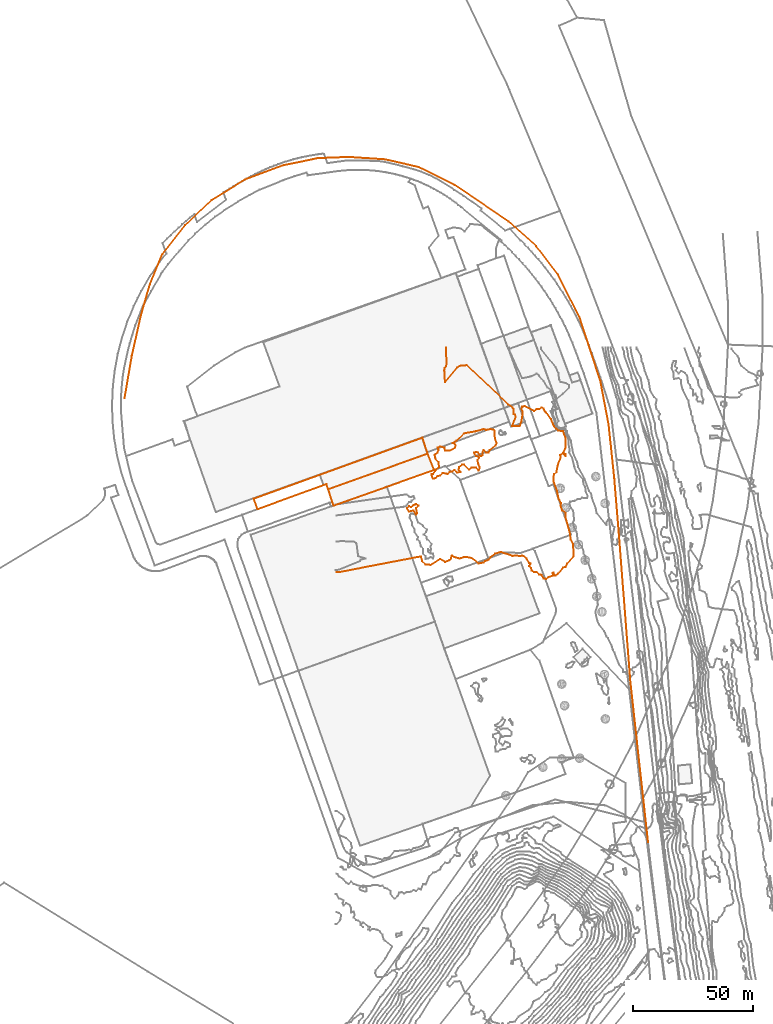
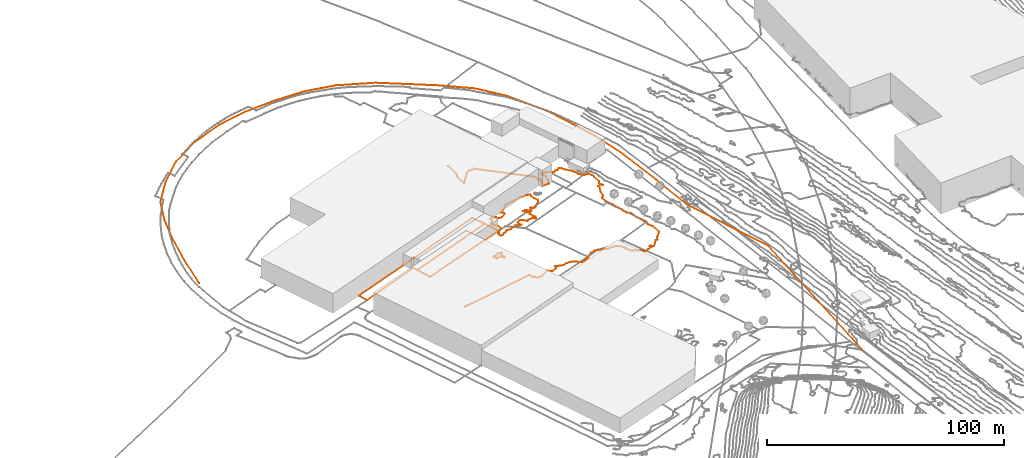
# Not in any storey, part 288 of 419: 6 proxies.
"""IFC2X3 model written with IfcOpenShell, lengths in metres."""

from ifc_helpers import new_model, entity, si_unit, frame, origin_with_axes, place, context, subcontext, project, element, save


model = new_model("IFC2X3")

# Units and contexts
model_context = context("Model", 3, precision=1e-05, world=origin_with_axes())
body_context = subcontext(model_context, "Body", "Model", "MODEL_VIEW")
ifc_project = project(units=[si_unit("AREAUNIT", "SQUARE_METRE"), si_unit("LENGTHUNIT", "METRE")], contexts=[model_context])

# Proxies
proxy_1_placement = place(None, frame((-87.9079795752, 1011.4976909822, 20.1), z_axis=(0.0, 0.0, 1.0), x_axis=(1.0, 0.0, 0.0)))
element("IfcBuildingElementProxy", 1, at=proxy_1_placement, Name="Route 140", ObjectType="NOTDEFINED", context=body_context, shape_type="GeometricCurveSet", body=[
    entity("IfcGeometricCurveSet", [entity("IfcPolyline", [entity("IfcCartesianPoint", [217.3, -184.5, 1.0]), entity("IfcCartesianPoint", [209.9, -117.0, 16.7]), entity("IfcCartesianPoint", [205.2, -56.5999999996, 2.8]), entity("IfcCartesianPoint", [203.3, -33.5999999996, 2.5]), entity("IfcCartesianPoint", [200.9, -10.6999999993, 2.3]), entity("IfcCartesianPoint", [197.5, 7.1000000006, 2.2]), entity("IfcCartesianPoint", [188.9, 33.4000000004, 2.3]), entity("IfcCartesianPoint", [179.9, 51.3000000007, 2.3]), entity("IfcCartesianPoint", [170.8, 63.2000000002, 2.2]), entity("IfcCartesianPoint", [159.4, 73.3000000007, 1.6]), entity("IfcCartesianPoint", [137.0, 88.5, 1.6]), entity("IfcCartesianPoint", [122.1, 95.9000000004, 1.0]), entity("IfcCartesianPoint", [108.1, 99.1000000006, 0.8]), entity("IfcCartesianPoint", [93.0, 100.1000000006, 0.2]), entity("IfcCartesianPoint", [80.2, 99.6000000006, -0.1]), entity("IfcCartesianPoint", [65.6, 96.6000000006, 0.0]), entity("IfcCartesianPoint", [50.1, 90.8000000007, 0.0]), entity("IfcCartesianPoint", [36.1, 82.2000000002, 0.0]), entity("IfcCartesianPoint", [25.1, 71.8000000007, 0.0]), entity("IfcCartesianPoint", [15.7, 59.9000000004, 0.0]), entity("IfcCartesianPoint", [10.5, 47.4000000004, 0.0]), entity("IfcCartesianPoint", [6.6, 33.7000000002, 0.0]), entity("IfcCartesianPoint", [3.0, 17.4000000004, 0.0]), entity("IfcCartesianPoint", [0.0, 0.0, 0.0])])]),
])
proxy_2_placement = place(None, frame((-3.3779795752, 973.667690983, 20.1100006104), z_axis=(0.0, 0.0, 1.0), x_axis=(1.0, 0.0, 0.0)))
element("IfcBuildingElementProxy", 2, at=proxy_2_placement, Name="Cadastre 261", ObjectType="NOTDEFINED", context=body_context, shape_type="GeometricCurveSet", body=[
    entity("IfcGeometricCurveSet", [entity("IfcPolyline", [entity("IfcCartesianPoint", [1.6799999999, -5.1699999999, -0.0649997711]), entity("IfcCartesianPoint", [0.0, 0.0, 0.0]), entity("IfcCartesianPoint", [41.27, 14.79, 0.4421793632]), entity("IfcCartesianPoint", [41.34, 14.5599999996, 0.4602443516]), entity("IfcCartesianPoint", [44.0, 8.0299999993, -0.1221913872]), entity("IfcCartesianPoint", [2.21, -6.8000000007, -0.1771011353]), entity("IfcCartesianPoint", [1.6799999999, -5.1699999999, -0.0649997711])])]),
])
proxy_3_placement = place(None, frame((-34.2679795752, 969.7476909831, 20.0935002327), z_axis=(0.0, 0.0, 1.0), x_axis=(1.0, 0.0, 0.0)))
element("IfcBuildingElementProxy", 3, at=proxy_3_placement, Name="Cadastre 266", ObjectType="NOTDEFINED", context=body_context, shape_type="GeometricCurveSet", body=[
    entity("IfcGeometricCurveSet", [entity("IfcPolyline", [entity("IfcCartesianPoint", [72.16, 18.71, 0.4586797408]), entity("IfcCartesianPoint", [30.89, 3.9199999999, 0.0165003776]), entity("IfcCartesianPoint", [30.1800000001, 6.0899999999, 0.0209004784]), entity("IfcCartesianPoint", [28.95, 5.6499999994, 0.0165003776]), entity("IfcCartesianPoint", [1.52, -4.3400000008, -0.2628003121]), entity("IfcCartesianPoint", [0.0, 0.0, 0.0]), entity("IfcCartesianPoint", [70.03, 25.3499999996, 0.134989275]), entity("IfcCartesianPoint", [72.16, 18.71, 0.4586797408])])]),
])
proxy_4_placement = place(None, frame((39.5920704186, 979.8976909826, 20.0), z_axis=(0.0, 0.0, 1.0), x_axis=(1.0, 0.0, 0.0)))
element("IfcBuildingElementProxy", 4, at=proxy_4_placement, Name="Contour 20.0 m", ObjectType="NOTDEFINED", context=body_context, shape_type="GeometricCurveSet", body=[
    entity("IfcGeometricCurveSet", [entity("IfcPolyline", [entity("IfcCartesianPoint", [1.4999500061, -1.5999999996, 0.0]), entity("IfcCartesianPoint", [2.4999500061, -0.75, 0.0]), entity("IfcCartesianPoint", [3.4999500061, -0.499983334, 0.0]), entity("IfcCartesianPoint", [4.4999500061, 0.5000249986, 0.0]), entity("IfcCartesianPoint", [6.4999500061, 0.1666719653, 0.0]), entity("IfcCartesianPoint", [7.4999500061, 1.0000499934, 0.0]), entity("IfcCartesianPoint", [8.4999500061, 1.2000000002, 0.0]), entity("IfcCartesianPoint", [9.4999500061, 1.7999999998, 0.0]), entity("IfcCartesianPoint", [10.4999500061, 0.7499940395, 0.0]), entity("IfcCartesianPoint", [11.9999000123, 1.0, 0.0]), entity("IfcCartesianPoint", [11.4999500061, 1.333333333, 0.0]), entity("IfcCartesianPoint", [11.2142279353, 2.0, 0.0]), entity("IfcCartesianPoint", [11.2999500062, 3.0, 0.0]), entity("IfcCartesianPoint", [12.4999500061, 4.0000199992, 0.0]), entity("IfcCartesianPoint", [13.4999500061, 4.0000999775, 0.0]), entity("IfcCartesianPoint", [15.4999500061, 2.0000499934, 0.0]), entity("IfcCartesianPoint", [16.4999500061, 2.7142779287, 0.0]), entity("IfcCartesianPoint", [18.4999500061, 2.75, 0.0]), entity("IfcCartesianPoint", [19.4999500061, 1.5714285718, 0.0]), entity("IfcCartesianPoint", [19.9444038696, 3.0, 0.0]), entity("IfcCartesianPoint", [19.3749470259, 4.0, 0.0]), entity("IfcCartesianPoint", [18.9285214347, 6.0, 0.0]), entity("IfcCartesianPoint", [19.7499500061, 7.0, 0.0]), entity("IfcCartesianPoint", [19.4999500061, 7.333333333, 0.0]), entity("IfcCartesianPoint", [18.4999500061, 7.4999750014, 0.0]), entity("IfcCartesianPoint", [17.4999357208, 9.0, 0.0]), entity("IfcCartesianPoint", [18.4999500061, 9.2727320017, 0.0]), entity("IfcCartesianPoint", [19.2499500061, 9.0, 0.0]), entity("IfcCartesianPoint", [20.4999500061, 7.500016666, 0.0]), entity("IfcCartesianPoint", [20.9999333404, 8.0, 0.0]), entity("IfcCartesianPoint", [20.9999000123, 9.0, 0.0]), entity("IfcCartesianPoint", [21.4999500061, 10.0000249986, 0.0]), entity("IfcCartesianPoint", [22.4999500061, 9.0000333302, 0.0]), entity("IfcCartesianPoint", [23.4999500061, 9.0000333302, 0.0]), entity("IfcCartesianPoint", [24.0999500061, 10.0, 0.0]), entity("IfcCartesianPoint", [26.4999500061, 12.0000249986, 0.0]), entity("IfcCartesianPoint", [26.9444038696, 13.0, 0.0]), entity("IfcCartesianPoint", [26.2499440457, 15.0, 0.0]), entity("IfcCartesianPoint", [25.9999333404, 17.0, 0.0]), entity("IfcCartesianPoint", [26.1666166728, 18.0, 0.0]), entity("IfcCartesianPoint", [25.4999500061, 18.4999750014, 0.0]), entity("IfcCartesianPoint", [24.4999500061, 18.75, 0.0]), entity("IfcCartesianPoint", [22.4999500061, 18.4285714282, 0.0]), entity("IfcCartesianPoint", [21.4999500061, 18.7499940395, 0.0]), entity("IfcCartesianPoint", [18.4999500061, 17.8749970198, 0.0]), entity("IfcCartesianPoint", [13.4999500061, 16.9999750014, 0.0]), entity("IfcCartesianPoint", [10.2999500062, 14.0, 0.0]), entity("IfcCartesianPoint", [8.6666219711, 13.0, 0.0]), entity("IfcCartesianPoint", [9.4999500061, 12.6875044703, 0.0]), entity("IfcCartesianPoint", [9.9230289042, 12.0, 0.0]), entity("IfcCartesianPoint", [9.5869086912, 11.0, 0.0]), entity("IfcCartesianPoint", [7.4999500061, 9.7619073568, 0.0]), entity("IfcCartesianPoint", [5.4999500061, 9.8888865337, 0.0]), entity("IfcCartesianPoint", [5.3570889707, 11.0, 0.0]), entity("IfcCartesianPoint", [3.4999500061, 11.5625014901, 0.0]), entity("IfcCartesianPoint", [2.4999500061, 11.0384623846, 0.0]), entity("IfcCartesianPoint", [2.7499539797, 10.0, 0.0]), entity("IfcCartesianPoint", [2.323475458, 9.0, 0.0]), entity("IfcCartesianPoint", [1.4999500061, 8.4814809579, 0.0]), entity("IfcCartesianPoint", [1.2635875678, 8.0, 0.0]), entity("IfcCartesianPoint", [1.4999500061, 6.5500009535, 0.0]), entity("IfcCartesianPoint", [2.8749509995, 5.0, 0.0]), entity("IfcCartesianPoint", [2.9999625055, 3.0, 0.0]), entity("IfcCartesianPoint", [1.899947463, 2.0, 0.0]), entity("IfcCartesianPoint", [0.4999500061, 0.0500009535, 0.0]), entity("IfcCartesianPoint", [0.0, 0.0, 0.0]), entity("IfcCartesianPoint", [0.0554961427, -1.0, 0.0]), entity("IfcCartesianPoint", [0.4999500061, -1.7999999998, 0.0]), entity("IfcCartesianPoint", [1.4999500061, -1.5999999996, 0.0])])]),
])
proxy_5_placement = place(None, frame((29.2659363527, 965.8976909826, 20.0), z_axis=(0.0, 0.0, 1.0), x_axis=(1.0, 0.0, 0.0)))
element("IfcBuildingElementProxy", 5, at=proxy_5_placement, Name="Contour 20.0 m", ObjectType="NOTDEFINED", context=body_context, shape_type="GeometricCurveSet", body=[
    entity("IfcGeometricCurveSet", [entity("IfcPolyline", [entity("IfcCartesianPoint", [3.8260840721, -2.75, 0.0]), entity("IfcCartesianPoint", [4.2546555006, -2.0, 0.0]), entity("IfcCartesianPoint", [3.8260697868, 0.0, 0.0]), entity("IfcCartesianPoint", [4.8260697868, 1.0, 0.0]), entity("IfcCartesianPoint", [3.8260840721, 1.5384626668, 0.0]), entity("IfcCartesianPoint", [2.8260840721, 1.2857220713, 0.0]), entity("IfcCartesianPoint", [1.8260840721, 0.333340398, 0.0]), entity("IfcCartesianPoint", [0.8260840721, 0.7307706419, 0.0]), entity("IfcCartesianPoint", [0.0, 0.0, 0.0]), entity("IfcCartesianPoint", [0.8260840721, -1.499983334, 0.0]), entity("IfcCartesianPoint", [2.8261840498, -1.0, 0.0]), entity("IfcCartesianPoint", [3.8260840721, -2.75, 0.0])])]),
])
proxy_6_placement = place(None, frame((-0.4079795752, 939.2310313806, 21.0), z_axis=(0.0, 0.0, 1.0), x_axis=(1.0, 0.0, 0.0)))
element("IfcBuildingElementProxy", 6, at=proxy_6_placement, Name="Contour 21.0 m", ObjectType="NOTDEFINED", context=body_context, shape_type="GeometricCurveSet", body=[
    entity("IfcGeometricCurveSet", [entity("IfcPolyline", [entity("IfcCartesianPoint", [0.0, 0.0, 0.0]), entity("IfcCartesianPoint", [1.5, 0.0416566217, 0.0]), entity("IfcCartesianPoint", [35.5, 6.6041581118, 0.0]), entity("IfcCartesianPoint", [36.086205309, 4.666659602, 0.0]), entity("IfcCartesianPoint", [37.5, 3.186656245, 0.0]), entity("IfcCartesianPoint", [39.5, 3.0740685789, 0.0]), entity("IfcCartesianPoint", [43.5, 5.4999876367, 0.0]), entity("IfcCartesianPoint", [45.5, 4.3333262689, 0.0]), entity("IfcCartesianPoint", [47.5, 5.1111134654, 0.0]), entity("IfcCartesianPoint", [47.99999, 5.666659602, 0.0]), entity("IfcCartesianPoint", [48.1875044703, 6.666659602, 0.0]), entity("IfcCartesianPoint", [48.5, 6.8333241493, 0.0]), entity("IfcCartesianPoint", [49.5, 6.2222057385, 0.0]), entity("IfcCartesianPoint", [51.5, 5.7333279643, 0.0]), entity("IfcCartesianPoint", [53.5, 6.2916506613, 0.0]), entity("IfcCartesianPoint", [55.5, 6.1666846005, 0.0]), entity("IfcCartesianPoint", [56.5, 5.8666596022, 0.0]), entity("IfcCartesianPoint", [59.5, 3.6666662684, 0.0]), entity("IfcCartesianPoint", [61.5, 4.0537573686, 0.0]), entity("IfcCartesianPoint", [62.2037044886, 4.666659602, 0.0]), entity("IfcCartesianPoint", [63.5, 5.1666679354, 0.0]), entity("IfcCartesianPoint", [64.5, 6.3508706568, 0.0]), entity("IfcCartesianPoint", [66.3095203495, 7.666659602, 0.0]), entity("IfcCartesianPoint", [68.5, 8.4380886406, 0.0]), entity("IfcCartesianPoint", [73.5, 6.8095161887, 0.0]), entity("IfcCartesianPoint", [75.5, 6.8999925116, 0.0]), entity("IfcCartesianPoint", [76.5, 6.6666637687, 0.0]), entity("IfcCartesianPoint", [77.5, 6.9099027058, 0.0]), entity("IfcCartesianPoint", [78.1000025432, 6.666659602, 0.0]), entity("IfcCartesianPoint", [79.3571389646, 5.666659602, 0.0]), entity("IfcCartesianPoint", [80.5, 3.916659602, 0.0]), entity("IfcCartesianPoint", [81.0000499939, 3.666659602, 0.0]), entity("IfcCartesianPoint", [80.5000999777, 2.666659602, 0.0]), entity("IfcCartesianPoint", [81.25, 1.666659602, 0.0]), entity("IfcCartesianPoint", [81.5000499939, 0.666659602, 0.0]), entity("IfcCartesianPoint", [82.5, -7.065e-06, 0.0]), entity("IfcCartesianPoint", [83.5, -7.065e-06, 0.0]), entity("IfcCartesianPoint", [84.5, -0.9333403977, 0.0]), entity("IfcCartesianPoint", [85.5, -1.0833344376, 0.0]), entity("IfcCartesianPoint", [86.5, -2.583340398, 0.0]), entity("IfcCartesianPoint", [87.5, -2.7333403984, 0.0]), entity("IfcCartesianPoint", [88.5, -2.000007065, 0.0]), entity("IfcCartesianPoint", [90.4999500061, -1.333340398, 0.0]), entity("IfcCartesianPoint", [90.25, -0.333340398, 0.0]), entity("IfcCartesianPoint", [90.5, -0.1333403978, 0.0]), entity("IfcCartesianPoint", [91.5, -1.3332904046, 0.0]), entity("IfcCartesianPoint", [92.5, -0.6190624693, 0.0]), entity("IfcCartesianPoint", [94.5, 1.999992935, 0.0]), entity("IfcCartesianPoint", [95.5, 2.1667095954, 0.0]), entity("IfcCartesianPoint", [96.25, 3.666659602, 0.0]), entity("IfcCartesianPoint", [98.9285714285, 6.666659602, 0.0]), entity("IfcCartesianPoint", [98.6785694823, 11.666659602, 0.0]), entity("IfcCartesianPoint", [97.6875044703, 13.666659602, 0.0]), entity("IfcCartesianPoint", [97.2727300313, 16.666659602, 0.0]), entity("IfcCartesianPoint", [95.5833346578, 22.666659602, 0.0]), entity("IfcCartesianPoint", [95.5555567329, 24.666659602, 0.0]), entity("IfcCartesianPoint", [94.1363573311, 25.666659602, 0.0]), entity("IfcCartesianPoint", [93.4999666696, 27.666659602, 0.0]), entity("IfcCartesianPoint", [93.6428597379, 28.666659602, 0.0]), entity("IfcCartesianPoint", [92.6739159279, 30.666659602, 0.0]), entity("IfcCartesianPoint", [91.9999964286, 33.666659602, 0.0]), entity("IfcCartesianPoint", [90.6111134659, 37.666659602, 0.0]), entity("IfcCartesianPoint", [90.4999941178, 39.666659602, 0.0]), entity("IfcCartesianPoint", [90.7999990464, 40.666659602, 0.0]), entity("IfcCartesianPoint", [91.7500059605, 41.666659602, 0.0]), entity("IfcCartesianPoint", [92.3571389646, 44.666659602, 0.0]), entity("IfcCartesianPoint", [93.4999500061, 47.666659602, 0.0]), entity("IfcCartesianPoint", [93.3571389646, 48.666659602, 0.0]), entity("IfcCartesianPoint", [94.5, 49.416659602, 0.0]), entity("IfcCartesianPoint", [95.5, 48.2380881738, 0.0]), entity("IfcCartesianPoint", [95.5, 48.9666653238, 0.0]), entity("IfcCartesianPoint", [94.6250029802, 49.666659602, 0.0]), entity("IfcCartesianPoint", [95.5238100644, 51.666659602, 0.0]), entity("IfcCartesianPoint", [95.5652168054, 55.666659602, 0.0]), entity("IfcCartesianPoint", [94.5, 58.6166586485, 0.0]), entity("IfcCartesianPoint", [92.5, 58.7600662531, 0.0]), entity("IfcCartesianPoint", [91.5677970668, 59.666659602, 0.0]), entity("IfcCartesianPoint", [90.6965319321, 60.666659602, 0.0]), entity("IfcCartesianPoint", [89.5, 63.6190396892, 0.0]), entity("IfcCartesianPoint", [87.5, 66.3666605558, 0.0]), entity("IfcCartesianPoint", [86.9999916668, 66.666659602, 0.0]), entity("IfcCartesianPoint", [86.5, 67.916659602, 0.0]), entity("IfcCartesianPoint", [85.5, 68.416659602, 0.0]), entity("IfcCartesianPoint", [84.5, 67.6666346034, 0.0]), entity("IfcCartesianPoint", [83.5, 67.6666396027, 0.0]), entity("IfcCartesianPoint", [82.5, 66.999992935, 0.0]), entity("IfcCartesianPoint", [78.5, 68.8974322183, 0.0]), entity("IfcCartesianPoint", [77.5, 68.8333315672, 0.0]), entity("IfcCartesianPoint", [77.2187492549, 67.666659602, 0.0]), entity("IfcCartesianPoint", [77.7258058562, 66.666659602, 0.0]), entity("IfcCartesianPoint", [77.7380961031, 65.666659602, 0.0]), entity("IfcCartesianPoint", [77.189655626, 62.666659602, 0.0]), entity("IfcCartesianPoint", [76.5000033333, 60.666659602, 0.0]), entity("IfcCartesianPoint", [73.3518487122, 60.666659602, 0.0]), entity("IfcCartesianPoint", [74.8928583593, 64.666659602, 0.0]), entity("IfcCartesianPoint", [74.5, 65.3999895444, 0.0]), entity("IfcCartesianPoint", [73.9285714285, 65.666659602, 0.0]), entity("IfcCartesianPoint", [73.9210510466, 67.666659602, 0.0]), entity("IfcCartesianPoint", [73.5, 68.3939276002, 0.0]), entity("IfcCartesianPoint", [71.75, 69.666659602, 0.0]), entity("IfcCartesianPoint", [54.5, 85.916659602, 0.0]), entity("IfcCartesianPoint", [51.5, 85.6666262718, 0.0]), entity("IfcCartesianPoint", [50.5, 84.916659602, 0.0]), entity("IfcCartesianPoint", [45.5, 78.999992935, 0.0]), entity("IfcCartesianPoint", [45.2241381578, 83.666659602, 0.0]), entity("IfcCartesianPoint", [45.3333333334, 84.666659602, 0.0]), entity("IfcCartesianPoint", [45.9545444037, 85.666659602, 0.0]), entity("IfcCartesianPoint", [46.1393446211, 86.666659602, 0.0]), entity("IfcCartesianPoint", [45.9459459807, 93.166659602, 0.0])])]),
])

save(model, "model.ifc")
